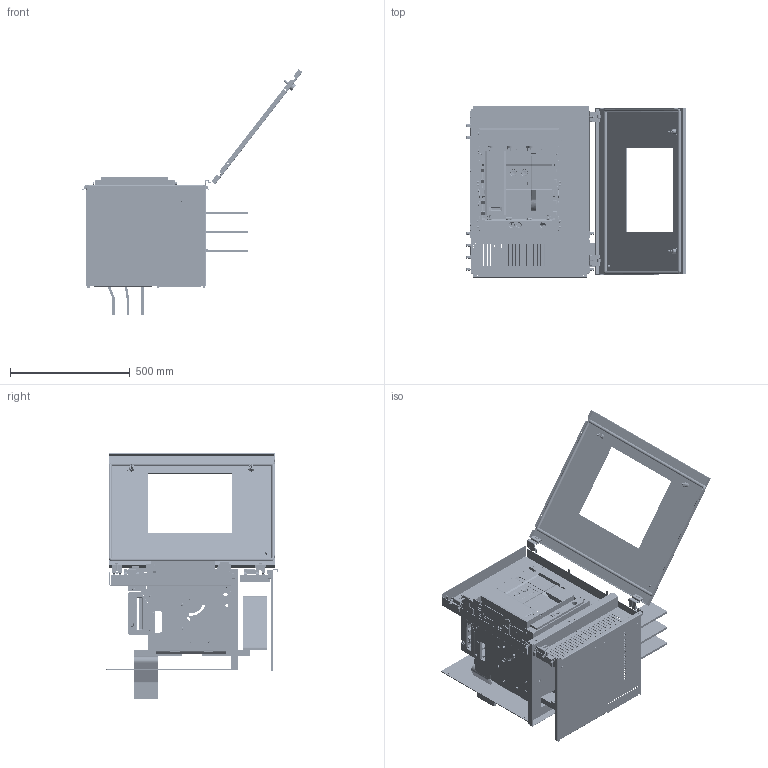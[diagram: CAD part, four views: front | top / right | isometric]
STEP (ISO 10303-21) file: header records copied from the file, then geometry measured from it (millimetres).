
FILE_DESCRIPTION(('CAx-IF Rec.Pracs.---Model Styling and Organization---1.2---2011-12-15','CAx-IF Rec.Pracs.---Geometric and Assembly Validation Properties---4.1---2014-06-16','CAx-IF Rec.Pracs.---PMI Polyline Presentation---2.0---2013-05-24'),'2;1');
FILE_NAME('R5M214IB4H61521S (one-side).stp','2021-05-05T12:50:04+03:00',(''),(''),'STEP Interface 4.4 by CT CoreTechnologie','3D_Evolution4.4 by CT CoreTechnologie','');
FILE_SCHEMA(('AUTOMOTIVE_DESIGN { 1 0 10303 214 1 1 1 1 }'));
Length unit declared in the file: millimetre
Products named in the file (31): R5M214IB4H61521S(îäíîñòîðîííèé); AC00C485; LST3W_-00; M6 x 16-DIN 7991 ISR_thread; RB.1446.00.00.0_-00; RB.1444.00.00.0_-00; RB.1445.00.00.0_-00; RB.1446.00.00.0_-01; RB.1447.00.00.0 ÑÁ_-00 (Emax E1.2 F); RB.1447.00.01.0_-00 ( LS W); PF 7x14 MCC2.0_0700x0600; AC00C266; AC00C061_AC00C061; Ì6õ12-A5100231_straight; RB.0116.00.00.2_-00; RB.0687.00.00.1_-00; RB.1233.00.00.0_-01; MS737-1-1(1); MS737-1-1 Z_ ªàëâ; MS737-1-1 stop_fixed; RB.1597.00.00.0_-00 (LS W); MS737-1-1(2); RB.1226.00.00.0_-00; LSDS1W_-00; RB.1227.00.00.0_-00; LSDS2W_-00; 2000AF(630-1600A) W 3P_- 01 (¯¥à¥¤­¨¥ è¨­ë); LSDS3W_-00; LST1W_-00; RB.1227.00.00.0_-01; LST2W_-00
Assembly tree (58 placements, depth 3):
  R5M214IB4H61521S(îäíîñòîðîííèé)
    AC00C485  x12
    LST3W_-00
    M6 x 16-DIN 7991 ISR_thread  x12
    RB.1446.00.00.0_-00
    RB.1444.00.00.0_-00  x2
    RB.1445.00.00.0_-00
    RB.1446.00.00.0_-01
    RB.1447.00.00.0 ÑÁ_-00 (Emax E1.2 F)
      RB.1447.00.01.0_-00 ( LS W)
      PF 7x14 MCC2.0_0700x0600
      AC00C266  x2
      AC00C061_AC00C061
      Ì6õ12-A5100231_straight
    RB.0116.00.00.2_-00  x2
    RB.0687.00.00.1_-00  x2
    RB.1233.00.00.0_-01
    MS737-1-1(1)
      MS737-1-1 Z_ ªàëâ
      MS737-1-1 stop_fixed
    RB.1597.00.00.0_-00 (LS W)
    MS737-1-1(2)
      MS737-1-1 Z_ ªàëâ
      MS737-1-1 stop_fixed
    RB.1226.00.00.0_-00
    LSDS1W_-00
    RB.1227.00.00.0_-00
    LSDS2W_-00
    2000AF(630-1600A) W 3P_- 01 (¯¥à¥¤­¨¥ è¨­ë)
    LSDS3W_-00
    LST1W_-00
    RB.1227.00.00.0_-01
    LST2W_-00
Bounding box: 921.56 x 717 x 1027.05 mm (x, y, z)
Surface area: 6297364.3 mm2 (no closed solid volume)
Topology: 0 solids, 156 shells, 8262 faces, 29454 edges, 20304 vertices
Faces by surface type: plane 4689, cylinder 2863, bspline 710
Entity records: 295794 total; most frequent: CARTESIAN_POINT 77170, DIRECTION 44495, ORIENTED_EDGE 42099, EDGE_CURVE 25885, VECTOR 18151, LINE 18151, VERTEX_POINT 18137, AXIS2_PLACEMENT_3D 13172
